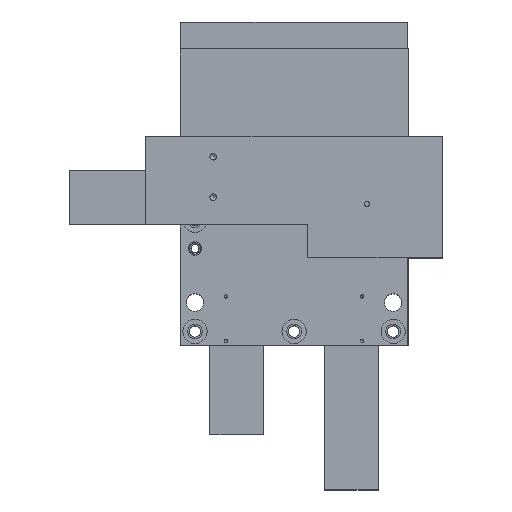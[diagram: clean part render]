
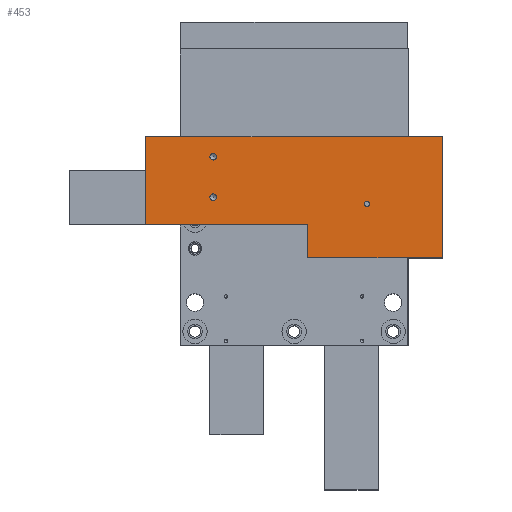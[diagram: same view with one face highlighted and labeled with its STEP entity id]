
A CAD part, top view. The second image highlights one B-rep face of the part: STEP entity #453.
In plain terms, the highlighted planar face has unit normal (0, 0, 1).
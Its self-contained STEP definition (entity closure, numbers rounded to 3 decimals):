
#453 = ADVANCED_FACE( '', ( #936, #937, #938, #939 ), #940, .F. );
#936 = FACE_BOUND( '', #1584, .T. );
#937 = FACE_BOUND( '', #1585, .T. );
#938 = FACE_BOUND( '', #1586, .T. );
#939 = FACE_OUTER_BOUND( '', #1587, .T. );
#940 = PLANE( '', #1588 );
#1584 = EDGE_LOOP( '', ( #2609 ) );
#1585 = EDGE_LOOP( '', ( #2610 ) );
#1586 = EDGE_LOOP( '', ( #2611 ) );
#1587 = EDGE_LOOP( '', ( #2612, #2613, #2614, #2615, #2616, #2617 ) );
#1588 = AXIS2_PLACEMENT_3D( '', #2618, #2619, #2620 );
#2609 = ORIENTED_EDGE( '', *, *, #3319, .F. );
#2610 = ORIENTED_EDGE( '', *, *, #3308, .F. );
#2611 = ORIENTED_EDGE( '', *, *, #3320, .T. );
#2612 = ORIENTED_EDGE( '', *, *, #3321, .F. );
#2613 = ORIENTED_EDGE( '', *, *, #3322, .T. );
#2614 = ORIENTED_EDGE( '', *, *, #3323, .F. );
#2615 = ORIENTED_EDGE( '', *, *, #3324, .T. );
#2616 = ORIENTED_EDGE( '', *, *, #3325, .T. );
#2617 = ORIENTED_EDGE( '', *, *, #3326, .F. );
#2618 = CARTESIAN_POINT( '', ( 110., -45., 84.5 ) );
#2619 = DIRECTION( '', ( 0., 0., -1. ) );
#2620 = DIRECTION( '', ( -1., 0., 0. ) );
#3308 = EDGE_CURVE( '', #3810, #3810, #3811, .T. );
#3319 = EDGE_CURVE( '', #3826, #3826, #3827, .T. );
#3320 = EDGE_CURVE( '', #3828, #3828, #3829, .T. );
#3321 = EDGE_CURVE( '', #3830, #3831, #3832, .T. );
#3322 = EDGE_CURVE( '', #3830, #3833, #3834, .T. );
#3323 = EDGE_CURVE( '', #3835, #3833, #3836, .T. );
#3324 = EDGE_CURVE( '', #3835, #3837, #3838, .T. );
#3325 = EDGE_CURVE( '', #3837, #3839, #3840, .T. );
#3326 = EDGE_CURVE( '', #3831, #3839, #3841, .T. );
#3810 = VERTEX_POINT( '', #4820 );
#3811 = CIRCLE( '', #4821, 2.459 );
#3826 = VERTEX_POINT( '', #4836 );
#3827 = CIRCLE( '', #4837, 2.459 );
#3828 = VERTEX_POINT( '', #4838 );
#3829 = CIRCLE( '', #4839, 2. );
#3830 = VERTEX_POINT( '', #4840 );
#3831 = VERTEX_POINT( '', #4841 );
#3832 = LINE( '', #4842, #4843 );
#3833 = VERTEX_POINT( '', #4844 );
#3834 = LINE( '', #4845, #4846 );
#3835 = VERTEX_POINT( '', #4847 );
#3836 = LINE( '', #4848, #4849 );
#3837 = VERTEX_POINT( '', #4850 );
#3838 = LINE( '', #4851, #4852 );
#3839 = VERTEX_POINT( '', #4853 );
#3840 = LINE( '', #4854, #4855 );
#3841 = LINE( '', #4856, #4857 );
#4820 = CARTESIAN_POINT( '', ( -60., 32.459, 84.5 ) );
#4821 = AXIS2_PLACEMENT_3D( '', #5892, #5893, #5894 );
#4836 = CARTESIAN_POINT( '', ( -60., 2.458, 84.5 ) );
#4837 = AXIS2_PLACEMENT_3D( '', #5916, #5917, #5918 );
#4838 = CARTESIAN_POINT( '', ( 54., -7., 84.5 ) );
#4839 = AXIS2_PLACEMENT_3D( '', #5919, #5920, #5921 );
#4840 = CARTESIAN_POINT( '', ( 10., -20., 84.5 ) );
#4841 = CARTESIAN_POINT( '', ( -110., -20., 84.5 ) );
#4842 = CARTESIAN_POINT( '', ( 110., -20., 84.5 ) );
#4843 = VECTOR( '', #5922, 1000. );
#4844 = CARTESIAN_POINT( '', ( 10., -45., 84.5 ) );
#4845 = CARTESIAN_POINT( '', ( 10., -20., 84.5 ) );
#4846 = VECTOR( '', #5923, 1000. );
#4847 = CARTESIAN_POINT( '', ( 110., -45., 84.5 ) );
#4848 = CARTESIAN_POINT( '', ( 110., -45., 84.5 ) );
#4849 = VECTOR( '', #5924, 1000. );
#4850 = CARTESIAN_POINT( '', ( 110., 45., 84.5 ) );
#4851 = CARTESIAN_POINT( '', ( 110., -45., 84.5 ) );
#4852 = VECTOR( '', #5925, 1000. );
#4853 = CARTESIAN_POINT( '', ( -110., 45., 84.5 ) );
#4854 = CARTESIAN_POINT( '', ( 110., 45., 84.5 ) );
#4855 = VECTOR( '', #5926, 1000. );
#4856 = CARTESIAN_POINT( '', ( -110., -45., 84.5 ) );
#4857 = VECTOR( '', #5927, 1000. );
#5892 = CARTESIAN_POINT( '', ( -60., 30., 84.5 ) );
#5893 = DIRECTION( '', ( 0., 0., 1. ) );
#5894 = DIRECTION( '', ( 0., 1., 0. ) );
#5916 = CARTESIAN_POINT( '', ( -60., 0., 84.5 ) );
#5917 = DIRECTION( '', ( 0., 0., 1. ) );
#5918 = DIRECTION( '', ( 0., 1., 0. ) );
#5919 = CARTESIAN_POINT( '', ( 54., -5., 84.5 ) );
#5920 = DIRECTION( '', ( 0., 0., -1. ) );
#5921 = DIRECTION( '', ( 0., -1., 0. ) );
#5922 = DIRECTION( '', ( -1., 0., 0. ) );
#5923 = DIRECTION( '', ( 0., -1., 0. ) );
#5924 = DIRECTION( '', ( -1., 0., 0. ) );
#5925 = DIRECTION( '', ( 0., 1., 0. ) );
#5926 = DIRECTION( '', ( -1., 0., 0. ) );
#5927 = DIRECTION( '', ( 0., 1., 0. ) );
